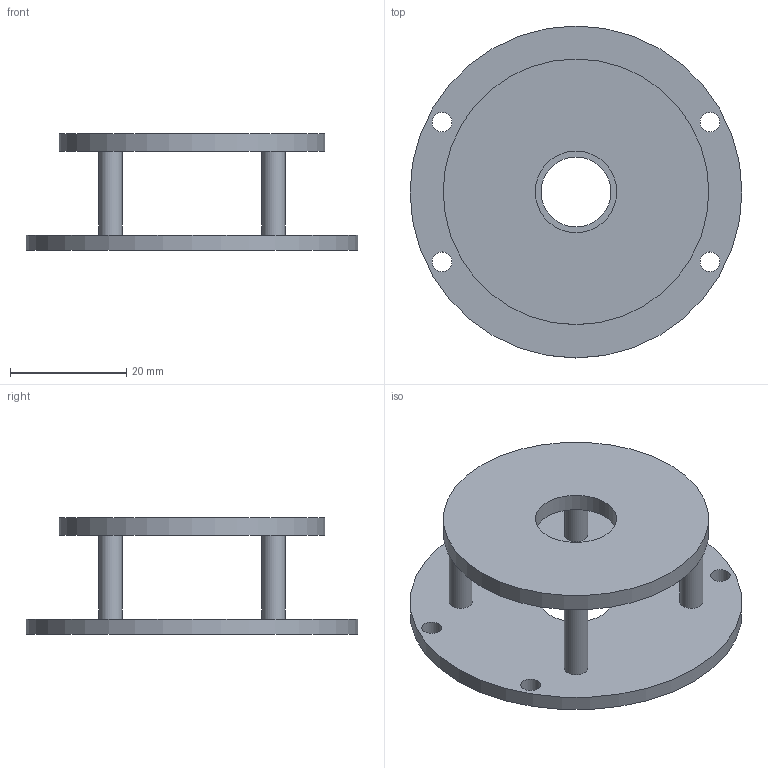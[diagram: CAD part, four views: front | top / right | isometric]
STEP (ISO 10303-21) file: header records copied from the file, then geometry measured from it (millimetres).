
FILE_DESCRIPTION(('FreeCAD Model'),'2;1');
FILE_NAME('Open CASCADE Shape Model','2026-09-19T17:54:12',('FreeCAD'),( 'FreeCAD'),'Open CASCADE STEP processor 7.8','FreeCAD','Unknown');
FILE_SCHEMA(('AUTOMOTIVE_DESIGN { 1 0 10303 214 1 1 1 1 }'));
Length unit declared in the file: millimetre
Products named in the file (1): Open CASCADE STEP translator 7.8 9
Bounding box: 57 x 57 x 20 mm (x, y, z)
Volume: 11407.5 mm3; surface area: 9622.8 mm2
Topology: 1 solids, 1 shells, 16 faces, 36 edges, 24 vertices
Faces by surface type: cylinder 12, plane 4
Full cylindrical faces by diameter (mm): 3.4 x4, 4 x4, 12 x1, 14 x1, 45.6 x1, 57 x1
Entity records: 510 total; most frequent: DIRECTION 94, CARTESIAN_POINT 77, ORIENTED_EDGE 72, AXIS2_PLACEMENT_3D 41, FACE_BOUND 36, EDGE_LOOP 36, EDGE_CURVE 36, VERTEX_POINT 24
